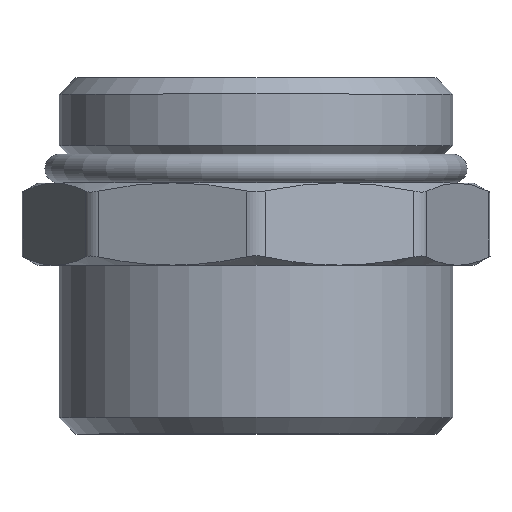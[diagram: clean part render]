
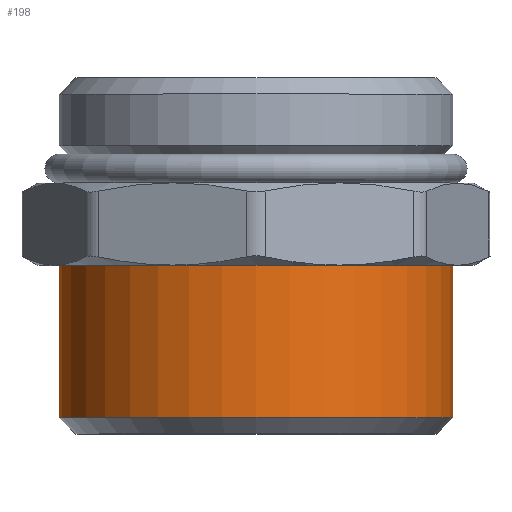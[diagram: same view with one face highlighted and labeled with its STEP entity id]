
A CAD part, top view. The second image highlights one B-rep face of the part: STEP entity #198.
In plain terms, the highlighted cylindrical face has radius 23.901 mm (diameter 47.803 mm), a full revolution.
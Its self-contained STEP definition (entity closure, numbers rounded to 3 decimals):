
#198=ADVANCED_FACE('',(#406,#408),#410,.T.);
#406=FACE_OUTER_BOUND('',#407,.T.);
#407=EDGE_LOOP('',(#1148));
#408=FACE_OUTER_BOUND('',#409,.T.);
#409=EDGE_LOOP('',(#1149));
#410=CYLINDRICAL_SURFACE('',#411,23.902);
#411=AXIS2_PLACEMENT_3D('',#412,#413,#414);
#412=CARTESIAN_POINT('',(0.,-30.5,0.));
#413=DIRECTION('',(0.,1.,0.));
#414=DIRECTION('',(-1.,0.,0.));
#1148=ORIENTED_EDGE('',*,*,#1201,.F.);
#1149=ORIENTED_EDGE('',*,*,#1254,.T.);
#1201=EDGE_CURVE('',#1272,#1272,#1273,.T.);
#1254=EDGE_CURVE('',#1362,#1362,#1363,.T.);
#1272=VERTEX_POINT('',#1396);
#1273=CIRCLE('',#1397,23.902);
#1362=VERTEX_POINT('',#2744);
#1363=CIRCLE('',#2745,23.902);
#1396=CARTESIAN_POINT('',(-23.902,-10.,0.));
#1397=AXIS2_PLACEMENT_3D('',#1398,#1399,#1400);
#1398=CARTESIAN_POINT('',(0.,-10.,0.));
#1399=DIRECTION('',(0.,1.,0.));
#1400=DIRECTION('',(-1.,0.,0.));
#2744=CARTESIAN_POINT('',(-23.902,-28.5,0.));
#2745=AXIS2_PLACEMENT_3D('',#2746,#2747,#2748);
#2746=CARTESIAN_POINT('',(0.,-28.5,0.));
#2747=DIRECTION('',(0.,1.,0.));
#2748=DIRECTION('',(-1.,0.,0.));
